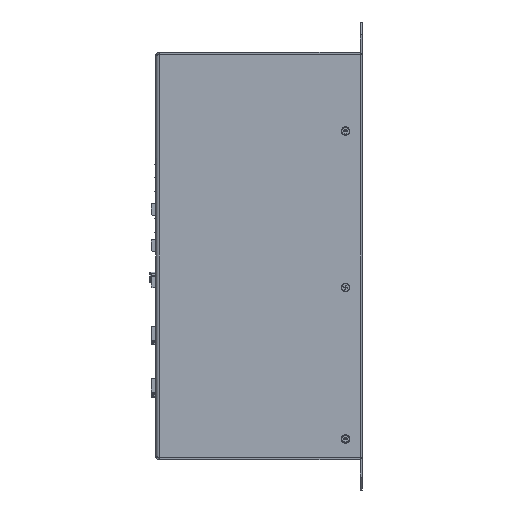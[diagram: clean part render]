
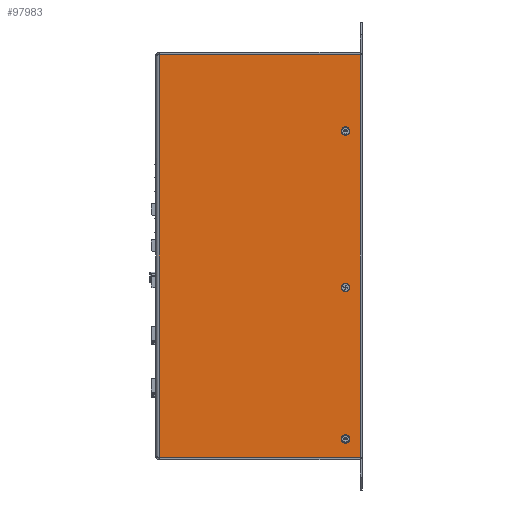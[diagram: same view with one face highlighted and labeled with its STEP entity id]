
A CAD part, left-side view. The second image highlights one B-rep face of the part: STEP entity #97983.
In plain terms, the highlighted planar face has unit normal (-1, 0, 0).
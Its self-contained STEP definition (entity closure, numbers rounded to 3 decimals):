
#7794 = EDGE_LOOP ( 'NONE', ( #193224, #193226 ) ) ;
#7797 = EDGE_LOOP ( 'NONE', ( #193236, #193238, #193240, #193242 ) ) ;
#7808 = EDGE_LOOP ( 'NONE', ( #193228, #193230 ) ) ;
#7815 = EDGE_LOOP ( 'NONE', ( #193232, #193234 ) ) ;
#8426 = AXIS2_PLACEMENT_3D ( 'NONE', #158124, #158126, #158128 ) ;
#8626 = AXIS2_PLACEMENT_3D ( 'NONE', #159908, #159911, #159914 ) ;
#9151 = AXIS2_PLACEMENT_3D ( 'NONE', #49623, #49624, #49625 ) ;
#9226 = AXIS2_PLACEMENT_3D ( 'NONE', #53782, #53783, #53784 ) ;
#9805 = LINE ( 'NONE', #15684, #9813 ) ;
#9813 = VECTOR ( 'NONE', #15699, 1000. ) ;
#9948 = LINE ( 'NONE', #16327, #9952 ) ;
#9952 = VECTOR ( 'NONE', #16285, 1000. ) ;
#14176 = CARTESIAN_POINT ( 'NONE',  ( -68.2, 12.3, 88.85 ) ) ;
#14177 = CARTESIAN_POINT ( 'NONE',  ( -68.2, 12.3, 95.15 ) ) ;
#14186 = CARTESIAN_POINT ( 'NONE',  ( -68.2, 12.3, -26.406 ) ) ;
#14187 = CARTESIAN_POINT ( 'NONE',  ( -68.2, 12.3, -20.106 ) ) ;
#14198 = CARTESIAN_POINT ( 'NONE',  ( -68.2, 12.3, -138.15 ) ) ;
#14200 = CARTESIAN_POINT ( 'NONE',  ( -68.2, 12.3, -131.85 ) ) ;
#15684 = CARTESIAN_POINT ( 'NONE',  ( -68.2, 149.6, 148.5 ) ) ;
#15699 = DIRECTION ( 'NONE',  ( 0., -1., 0. ) ) ;
#16285 = DIRECTION ( 'NONE',  ( 0., 0., -1. ) ) ;
#16327 = CARTESIAN_POINT ( 'NONE',  ( -68.2, 1.5, 148.7 ) ) ;
#16966 = VERTEX_POINT ( 'NONE', #159491 ) ;
#16990 = VERTEX_POINT ( 'NONE', #159493 ) ;
#17008 = VERTEX_POINT ( 'NONE', #159504 ) ;
#17031 = VERTEX_POINT ( 'NONE', #159511 ) ;
#49623 = CARTESIAN_POINT ( 'NONE',  ( -68.2, 12.3, 92. ) ) ;
#49624 = DIRECTION ( 'NONE',  ( -1., 0., 0. ) ) ;
#49625 = DIRECTION ( 'NONE',  ( 0., 0., 1. ) ) ;
#52686 = CIRCLE ( 'NONE', #9226, 3.15 ) ;
#53231 = LINE ( 'NONE', #55569, #53234 ) ;
#53234 = VECTOR ( 'NONE', #55572, 1000. ) ;
#53782 = CARTESIAN_POINT ( 'NONE',  ( -68.2, 12.3, -135. ) ) ;
#53783 = DIRECTION ( 'NONE',  ( -1., 0., 0. ) ) ;
#53784 = DIRECTION ( 'NONE',  ( 0., 0., 1. ) ) ;
#55569 = CARTESIAN_POINT ( 'NONE',  ( -68.2, 149.6, 148.7 ) ) ;
#55572 = DIRECTION ( 'NONE',  ( 0., 0., 1. ) ) ;
#88697 = VERTEX_POINT ( 'NONE', #14176 ) ;
#88702 = VERTEX_POINT ( 'NONE', #14177 ) ;
#88734 = VERTEX_POINT ( 'NONE', #14186 ) ;
#88740 = VERTEX_POINT ( 'NONE', #14187 ) ;
#88769 = VERTEX_POINT ( 'NONE', #14198 ) ;
#88775 = VERTEX_POINT ( 'NONE', #14200 ) ;
#95065 = EDGE_CURVE ( 'NONE', #17008, #16966, #9805, .T. ) ;
#95216 = EDGE_CURVE ( 'NONE', #16966, #16990, #9948, .T. ) ;
#97983 = ADVANCED_FACE ( 'NONE', ( #134516, #134493, #134502, #134511 ), #141086, .F. ) ;
#104999 = EDGE_CURVE ( 'NONE', #88734, #88740, #157037, .T. ) ;
#105285 = EDGE_CURVE ( 'NONE', #88769, #88775, #157369, .T. ) ;
#107561 = EDGE_CURVE ( 'NONE', #88697, #88702, #166176, .T. ) ;
#110713 = EDGE_CURVE ( 'NONE', #88775, #88769, #52686, .T. ) ;
#111075 = EDGE_CURVE ( 'NONE', #17031, #17008, #53231, .T. ) ;
#112846 = EDGE_CURVE ( 'NONE', #88740, #88734, #147243, .T. ) ;
#112856 = EDGE_CURVE ( 'NONE', #17031, #16990, #147265, .T. ) ;
#124993 = AXIS2_PLACEMENT_3D ( 'NONE', #153915, #153917, #153919 ) ;
#125006 = AXIS2_PLACEMENT_3D ( 'NONE', #132855, #132859, #132863 ) ;
#129659 = CIRCLE ( 'NONE', #125006, 3.15 ) ;
#132855 = CARTESIAN_POINT ( 'NONE',  ( -68.2, 12.3, 92. ) ) ;
#132859 = DIRECTION ( 'NONE',  ( -1., 0., 0. ) ) ;
#132863 = DIRECTION ( 'NONE',  ( 0., 0., 1. ) ) ;
#134493 = FACE_BOUND ( 'NONE', #7808, .T. ) ;
#134502 = FACE_BOUND ( 'NONE', #7815, .T. ) ;
#134511 = FACE_OUTER_BOUND ( 'NONE', #7797, .T. ) ;
#134516 = FACE_BOUND ( 'NONE', #7794, .T. ) ;
#141086 = PLANE ( 'NONE',  #177196 ) ;
#141091 = CARTESIAN_POINT ( 'NONE',  ( -68.2, 1.5, 148.7 ) ) ;
#141094 = DIRECTION ( 'NONE',  ( 1., 0., 0. ) ) ;
#141095 = DIRECTION ( 'NONE',  ( 0., 1., 0. ) ) ;
#144103 = EDGE_CURVE ( 'NONE', #88702, #88697, #129659, .T. ) ;
#147243 = CIRCLE ( 'NONE', #124993, 3.15 ) ;
#147265 = LINE ( 'NONE', #153931, #147278 ) ;
#147278 = VECTOR ( 'NONE', #153935, 1000. ) ;
#153915 = CARTESIAN_POINT ( 'NONE',  ( -68.2, 12.3, -23.256 ) ) ;
#153917 = DIRECTION ( 'NONE',  ( -1., 0., 0. ) ) ;
#153919 = DIRECTION ( 'NONE',  ( 0., 0., 1. ) ) ;
#153931 = CARTESIAN_POINT ( 'NONE',  ( -68.2, 149.6, -148.5 ) ) ;
#153935 = DIRECTION ( 'NONE',  ( 0., -1., 0. ) ) ;
#157037 = CIRCLE ( 'NONE', #8426, 3.15 ) ;
#157369 = CIRCLE ( 'NONE', #8626, 3.15 ) ;
#158124 = CARTESIAN_POINT ( 'NONE',  ( -68.2, 12.3, -23.256 ) ) ;
#158126 = DIRECTION ( 'NONE',  ( -1., 0., 0. ) ) ;
#158128 = DIRECTION ( 'NONE',  ( 0., 0., 1. ) ) ;
#159491 = CARTESIAN_POINT ( 'NONE',  ( -68.2, 1.5, 148.5 ) ) ;
#159493 = CARTESIAN_POINT ( 'NONE',  ( -68.2, 1.5, -148.5 ) ) ;
#159504 = CARTESIAN_POINT ( 'NONE',  ( -68.2, 149.6, 148.5 ) ) ;
#159511 = CARTESIAN_POINT ( 'NONE',  ( -68.2, 149.6, -148.5 ) ) ;
#159908 = CARTESIAN_POINT ( 'NONE',  ( -68.2, 12.3, -135. ) ) ;
#159911 = DIRECTION ( 'NONE',  ( -1., 0., 0. ) ) ;
#159914 = DIRECTION ( 'NONE',  ( 0., 0., 1. ) ) ;
#166176 = CIRCLE ( 'NONE', #9151, 3.15 ) ;
#177196 = AXIS2_PLACEMENT_3D ( 'NONE', #141091, #141094, #141095 ) ;
#193224 = ORIENTED_EDGE ( 'NONE', *, *, #144103, .F. ) ;
#193226 = ORIENTED_EDGE ( 'NONE', *, *, #107561, .F. ) ;
#193228 = ORIENTED_EDGE ( 'NONE', *, *, #112846, .F. ) ;
#193230 = ORIENTED_EDGE ( 'NONE', *, *, #104999, .F. ) ;
#193232 = ORIENTED_EDGE ( 'NONE', *, *, #110713, .F. ) ;
#193234 = ORIENTED_EDGE ( 'NONE', *, *, #105285, .F. ) ;
#193236 = ORIENTED_EDGE ( 'NONE', *, *, #111075, .F. ) ;
#193238 = ORIENTED_EDGE ( 'NONE', *, *, #112856, .T. ) ;
#193240 = ORIENTED_EDGE ( 'NONE', *, *, #95216, .F. ) ;
#193242 = ORIENTED_EDGE ( 'NONE', *, *, #95065, .F. ) ;
